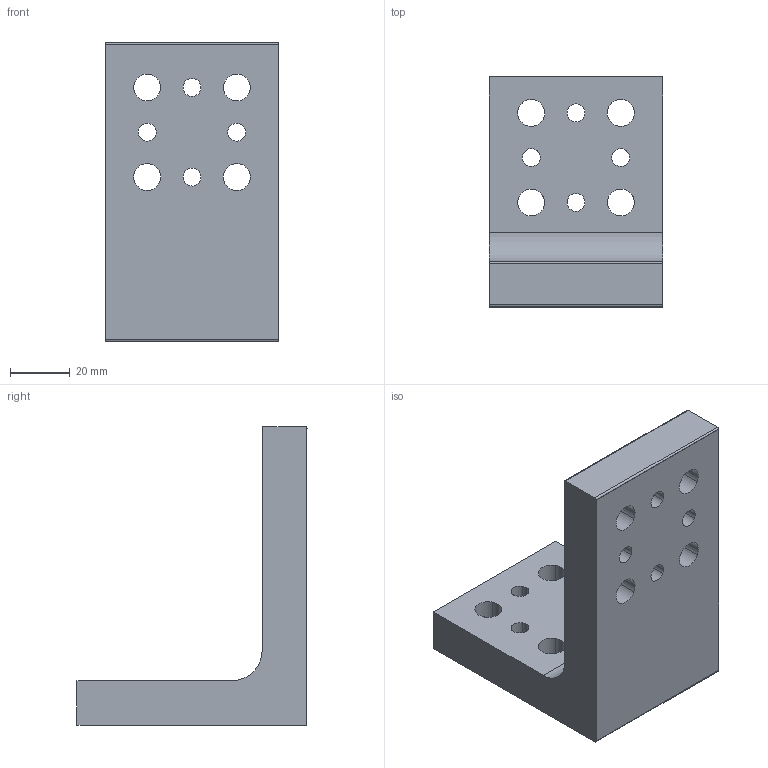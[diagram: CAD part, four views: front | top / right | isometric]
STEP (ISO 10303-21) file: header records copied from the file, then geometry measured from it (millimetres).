
FILE_DESCRIPTION(('STEP AP214'),'1');
FILE_NAME('EGT280_1707368_WINKEL_100X77X15.CATPart.stp','2015-09-14T13:16:20',('3D-Tool'),(' '),'Spatial InterOp 3D',' ',' ');
FILE_SCHEMA(('automotive_design'));
Length unit declared in the file: millimetre
Products named in the file (1): EGT280_1707368_WINKEL_100X77X15|PartBody|RectPattern.6
Bounding box: 58 x 77.02 x 100.03 mm (x, y, z)
Volume: 131151 mm3; surface area: 29338 mm2
Topology: 1 solids, 1 shells, 79 faces, 231 edges, 154 vertices
Faces by surface type: cylinder 71, plane 8
Entity records: 3428 total; most frequent: DIRECTION 533, CARTESIAN_POINT 465, ORIENTED_EDGE 462, EDGE_CURVE 231, AXIS2_PLACEMENT_3D 222, VERTEX_POINT 154, CIRCLE 142, EDGE_LOOP 111
